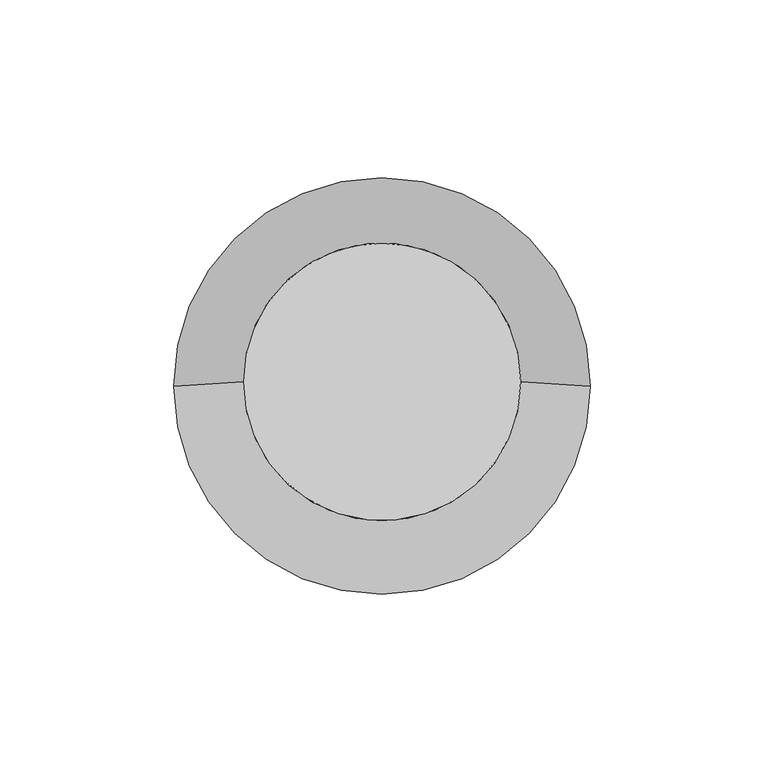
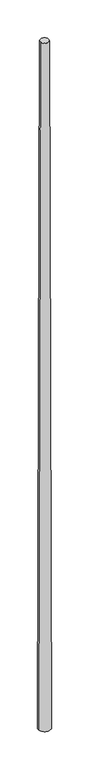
"""IFC4 building model written with IfcOpenShell, lengths in millimetres: furniture geometry, Columnas : Columnas."""

import ifcopenshell
import ifcopenshell.guid

model = None  # the IFC model being written
_history = None  # IfcOwnerHistory: only IFC2X3 demands one
_inside = {}  # id of a spatial element -> (the spatial element, [elements in it])
_under = {}  # id of a project, library or spatial element -> (it, [spatial elements below it])
_declared = {}  # id of a project -> (the project, [libraries it declares])
_typed = {}  # id of a type object -> (the type object, [elements of that type])
_made_of = {}  # id of a material, layer set ... -> (it, [elements and type objects made of it])


def new_model(schema):
    """Start an empty IFC model of exactly this schema.

    Asked for "IFC4X3", IfcOpenShell would pick the latest addendum, in which some entities
    have other attributes; the version numbers below select the first issue.
    IFC2X3 requires an IfcOwnerHistory on every rooted entity: one is made here for all.
    """
    global model, _history
    if schema == "IFC4X3":
        model = ifcopenshell.file(schema_version=(4, 3, 0, 0))
    else:
        model = ifcopenshell.file(schema=schema)
    _inside.clear()
    _under.clear()
    _declared.clear()
    _typed.clear()
    _made_of.clear()
    _history = None
    if model.schema == "IFC2X3":
        org = make("IfcOrganization", Name="unknown")
        user = make(
            "IfcPersonAndOrganization",
            ThePerson=make("IfcPerson", FamilyName="unknown"),
            TheOrganization=org,
        )
        app = make(
            "IfcApplication",
            ApplicationDeveloper=org,
            Version="unknown",
            ApplicationFullName="unknown",
            ApplicationIdentifier="unknown",
        )
        _history = make(
            "IfcOwnerHistory",
            OwningUser=user,
            OwningApplication=app,
            ChangeAction="ADDED",
            CreationDate=0,
        )
    return model


def make(cls, **values):
    """One entity of the class cls with the attributes given. An attribute that is None is left unset."""
    return model.create_entity(
        cls, **{name: value for name, value in values.items() if value is not None}
    )


def rooted(cls, **values):
    """An entity with a GlobalId (a new one), such as an element, a storey or a relation."""
    return make(cls, GlobalId=ifcopenshell.guid.new(), OwnerHistory=_history, **values)


def si_unit(unit_type, name, prefix=None):
    """IfcSIUnit, for example si_unit("LENGTHUNIT", "METRE", prefix="MILLI")."""
    return make("IfcSIUnit", UnitType=unit_type, Prefix=prefix, Name=name)


def assignment(units):
    """IfcUnitAssignment: the units of a project."""
    return None if units is None else make("IfcUnitAssignment", Units=units)


def point(xyz):
    """IfcCartesianPoint."""
    return None if xyz is None else make("IfcCartesianPoint", Coordinates=xyz)


def direction(xyz):
    """IfcDirection."""
    return None if xyz is None else make("IfcDirection", DirectionRatios=xyz)


def frame(location, z_axis=None, x_axis=None):
    """IfcAxis2Placement3D, a coordinate frame: its origin and axes. An axis left out is left unset."""
    return make(
        "IfcAxis2Placement3D",
        Location=point(location),
        Axis=direction(z_axis),
        RefDirection=direction(x_axis),
    )


def origin():
    """The frame at (0, 0, 0) with its axes left unset."""
    return frame((0.0, 0.0, 0.0))


def place(relative_to, where):
    """IfcLocalPlacement: puts the frame where relative to a parent placement (None: the world)."""
    return make(
        "IfcLocalPlacement", PlacementRelTo=relative_to, RelativePlacement=where
    )


def context(
    kind, dimensions, precision=None, world=None, true_north=None, identifier=None
):
    """IfcGeometricRepresentationContext, for example the 3D "Model" context."""
    return make(
        "IfcGeometricRepresentationContext",
        ContextIdentifier=identifier,
        ContextType=kind,
        CoordinateSpaceDimension=dimensions,
        Precision=precision,
        WorldCoordinateSystem=world,
        TrueNorth=true_north,
    )


def project(units=None, contexts=None):
    """IfcProject with its units and contexts."""
    return rooted(
        "IfcProject",
        Name="project",
        RepresentationContexts=contexts,
        UnitsInContext=assignment(units),
    )


def spatial(cls, under=None, at=None, **own):
    """A site, building, storey or space (cls), placed at a placement, below another one or the project."""
    s = rooted(cls, ObjectPlacement=at, **own)
    if under is not None:
        _under.setdefault(under.id(), (under, []))[1].append(s)
    return s


def polyline(points):
    """IfcPolyline through the points."""
    return make("IfcPolyline", Points=[point(p) for p in points])


def circle_curve(where, radius):
    """IfcCircle in the frame where."""
    return make("IfcCircle", Position=where, Radius=radius)


def shape(context_of_items, identifier, shape_type, items):
    """IfcShapeRepresentation: the items that make up one representation, for example the "Body"."""
    return make(
        "IfcShapeRepresentation",
        ContextOfItems=context_of_items,
        RepresentationIdentifier=identifier,
        RepresentationType=shape_type,
        Items=items,
    )


def source(mapping_origin, context_of_items, identifier, shape_type, items):
    """IfcRepresentationMap: a shape defined once, which mapped items show again and again."""
    return make(
        "IfcRepresentationMap",
        MappingOrigin=mapping_origin,
        MappedRepresentation=shape(context_of_items, identifier, shape_type, items),
    )


def transform(
    local_origin,
    x_axis=None,
    y_axis=None,
    z_axis=None,
    scale=None,
    scale2=None,
    scale3=None,
    uniform=True,
):
    """IfcCartesianTransformationOperator3D, or its non-uniform kind. x_axis, y_axis, z_axis: its Axis1, 2, 3."""
    if uniform:
        return make(
            "IfcCartesianTransformationOperator3D",
            Axis1=direction(x_axis),
            Axis2=direction(y_axis),
            LocalOrigin=point(local_origin),
            Scale=scale,
            Axis3=direction(z_axis),
        )
    return make(
        "IfcCartesianTransformationOperator3DnonUniform",
        Axis1=direction(x_axis),
        Axis2=direction(y_axis),
        LocalOrigin=point(local_origin),
        Scale=scale,
        Axis3=direction(z_axis),
        Scale2=scale2,
        Scale3=scale3,
    )


def mapped(mapping_source, mapping_target):
    """IfcMappedItem: shows the shape of a source again, moved by a transform."""
    return make(
        "IfcMappedItem", MappingSource=mapping_source, MappingTarget=mapping_target
    )


def made_of(thing, what):
    """Note that an element or type object is made of a material, layer set ...; save() writes the relation."""
    if what is not None:
        _made_of.setdefault(what.id(), (what, []))[1].append(thing)
    return thing


def element(
    cls,
    number,
    at=None,
    inside=None,
    cuts=None,
    type_object=None,
    material=None,
    context=None,
    identifier="Body",
    shape_type=None,
    held_by="IfcProductDefinitionShape",
    body=None,
    shapes=None,
    **own,
):
    """One element of the class cls, such as IfcWall. Its Tag is "e" and its number.

    at: its placement. inside: the storey or other place that contains it. cuts: it is an
    opening in that element (IfcRelVoidsElement). A single representation is given by context,
    identifier, shape_type and body (its items); several are given by shapes. held_by: the class
    of the entity that holds the representations. save() writes the other relations.
    """
    e = rooted(cls, Tag="e%d" % number, ObjectPlacement=at, **own)
    if body is not None:
        shapes = [shape(context, identifier, shape_type, body)]
    if shapes is not None:
        e.Representation = make(held_by, Representations=shapes)
    if inside is not None:
        _inside.setdefault(inside.id(), (inside, []))[1].append(e)
    if cuts is not None:
        rooted(
            "IfcRelVoidsElement", RelatingBuildingElement=cuts, RelatedOpeningElement=e
        )
    if type_object is not None:
        _typed.setdefault(type_object.id(), (type_object, []))[1].append(e)
    return made_of(e, material)


def aggregate(whole, parts):
    """IfcRelAggregates: a whole, such as a stair, and the parts it consists of."""
    return rooted("IfcRelAggregates", RelatingObject=whole, RelatedObjects=parts)


def save(model, path):
    """Write the relations noted so far, then the file.

    IfcRelAggregates (storeys below a building ...), IfcRelContainedInSpatialStructure (elements
    in a storey), IfcRelDefinesByType, IfcRelAssociatesMaterial and IfcRelDeclares: one each for
    every whole, place, type object, material and project.
    """
    for whole, parts in _under.values():
        aggregate(whole, parts)
    for where, things in _inside.values():
        rooted(
            "IfcRelContainedInSpatialStructure",
            RelatedElements=things,
            RelatingStructure=where,
        )
    for kind, things in _typed.values():
        rooted("IfcRelDefinesByType", RelatedObjects=things, RelatingType=kind)
    for what, things in _made_of.values():
        rooted("IfcRelAssociatesMaterial", RelatedObjects=things, RelatingMaterial=what)
    for by, libraries in _declared.values():
        rooted("IfcRelDeclares", RelatingContext=by, RelatedDefinitions=libraries)
    model.write(path)


def plane_surface(at):
    """IfcPlane: the flat surface through the origin of the frame at, square to its z axis."""
    return make("IfcPlane", Position=at)


def revolved_surface(curve, axis_point, axis_direction):
    """IfcSurfaceOfRevolution: the curve turned about the line through axis_point along axis_direction."""
    return make(
        "IfcSurfaceOfRevolution",
        SweptCurve=make("IfcArbitraryOpenProfileDef", ProfileType="CURVE", Curve=curve),
        AxisPosition=make("IfcAxis1Placement", Location=point(axis_point), Axis=direction(axis_direction)),
    )


def advanced_brep(points, edges, surfaces, faces):
    """IfcAdvancedBrep: a solid bounded by faces that lie on surfaces and meet in shared edges.

    An edge is (start, end): straight between two places in points (the first is 0);
    or (start, end, curve); or (start, end, curve, False) where it runs against its curve.
    A face is (place in surfaces, loops), or (place, loops, False) where it looks against
    its surface's normal. A loop lists edges by number (the first is 1), with a minus sign
    where the edge is run from its end to its start. The first loop is the outer one.
    """
    corners = [point(p) for p in points]
    vertices = [make("IfcVertexPoint", VertexGeometry=c) for c in corners]
    made = []
    for start, end, *more in edges:
        made.append(
            make(
                "IfcEdgeCurve",
                EdgeStart=vertices[start],
                EdgeEnd=vertices[end],
                EdgeGeometry=more[0] if more else make("IfcPolyline", Points=[corners[start], corners[end]]),
                SameSense=more[1] if len(more) > 1 else True,
            )
        )
    hull = []
    for where, loops, *sense in faces:
        bounds = []
        for j, loop in enumerate(loops):
            ring = [make("IfcOrientedEdge", EdgeElement=made[abs(k) - 1], Orientation=k > 0) for k in loop]
            bounds.append(
                make(
                    "IfcFaceOuterBound" if j == 0 else "IfcFaceBound",
                    Bound=make("IfcEdgeLoop", EdgeList=ring),
                    Orientation=True,
                )
            )
        hull.append(make("IfcAdvancedFace", Bounds=bounds, FaceSurface=surfaces[where], SameSense=sense[0] if sense else True))
    return make("IfcAdvancedBrep", Outer=make("IfcClosedShell", CfsFaces=hull))


def furniture_6cb22b23(model_context):
    return source(origin(), model_context, "Body", "AdvancedBrep", [
        advanced_brep(
        [(104.7003264, -279.937449, 0.0), (-15.2996736, -279.937449, 0.0), (4.7003264, -279.937449, 7000.0), (84.7003264, -279.937449, 7000.0)],
        [
            (0, 1, circle_curve(frame((44.7003264, -279.937449, 0.0), z_axis=(0.0, 0.0, 1.0), x_axis=(1.0, 0.0, 0.0)), 60.0)),
            (1, 2),
            (2, 3, circle_curve(frame((44.7003264, -279.937449, 7000.0), z_axis=(0.0, 0.0, -1.0), x_axis=(1.0, 0.0, 0.0)), 40.0)),
            (3, 0),
            (0, 1, circle_curve(frame((44.7003264, -279.937449, 0.0), z_axis=(0.0, 0.0, -1.0), x_axis=(-1.0, 0.0, 0.0)), 60.0)),
            (3, 2, circle_curve(frame((44.7003264, -279.937449, 7000.0), z_axis=(0.0, 0.0, -1.0), x_axis=(-1.0, 0.0, 0.0)), 40.0)),
        ],
        [
            revolved_surface(polyline([(84.70032640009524, -279.937449, 6999.999999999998), (104.7003264, -279.937449, 0.0)]), (44.7003264, -279.937449, 21000.0000001), (0.0, 0.0, -1.0)),
            plane_surface(frame((44.7003264, -279.937449, 0.0), z_axis=(0.0, 0.0, -1.0), x_axis=(0.0, -1.0, 0.0))),
            revolved_surface(polyline([(4.70032639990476, -279.937449, 6999.999999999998), (-15.299673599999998, -279.937449, 0.0)]), (44.7003264, -279.937449, 21000.0000001), (0.0, 0.0, -1.0)),
            plane_surface(frame((44.7003264, -279.937449, 7000.0), z_axis=(0.0, 0.0, 1.0), x_axis=(0.0, -1.0, 0.0))),
        ],
        [
            (0, [[1, 2, 3, 4]]),
            (1, [[-1, 5]]),
            (2, [[-5, -4, 6, -2]]),
            (3, [[-6, -3]]),
        ],
    ),
    ])


if __name__ == "__main__":
    model = new_model("IFC4")
    model_context = context("Model", 3, world=origin())
    ifc_project = project(units=[si_unit("LENGTHUNIT", "METRE", prefix="MILLI")], contexts=[model_context])
    site = spatial("IfcSite", under=ifc_project)
    building = spatial("IfcBuilding", under=site)
    placement = place(None, origin())
    furniture_shape = furniture_6cb22b23(model_context)
    element("IfcFurniture", 1, ObjectType="Columnas : Columnas", at=placement, inside=building, context=model_context, shape_type="MappedRepresentation", body=[
        mapped(furniture_shape, transform((0.0, 0.0, 0.0), x_axis=(1.0, 0.0, 0.0), y_axis=(0.0, 1.0, 0.0), z_axis=(0.0, 0.0, 1.0))),
    ])
    save(model, "model.ifc")
